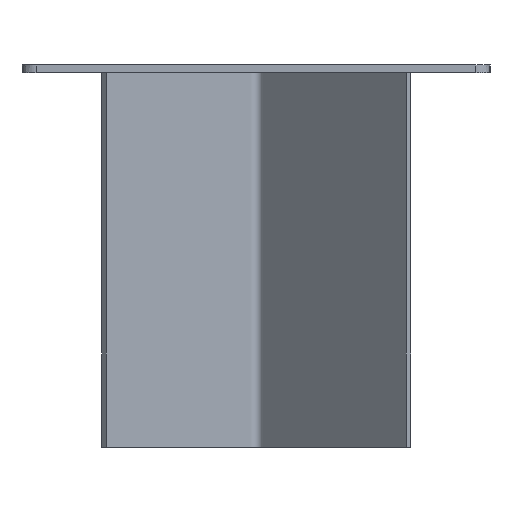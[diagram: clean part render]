
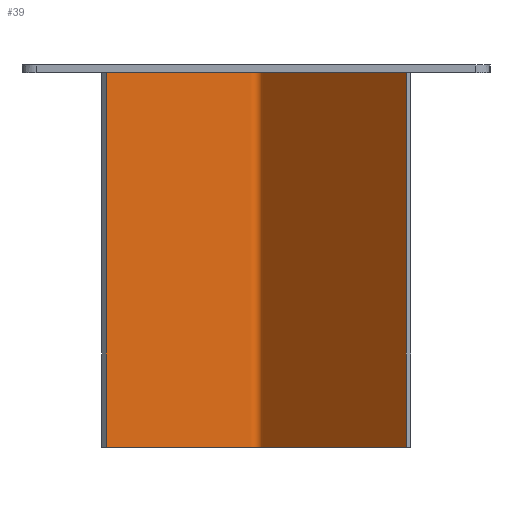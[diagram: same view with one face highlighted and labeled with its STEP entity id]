
A CAD part, left-side view. The second image highlights one B-rep face of the part: STEP entity #39.
In plain terms, the highlighted free-form (B-spline) face has degree [1, 2] with [2, 7] control points.
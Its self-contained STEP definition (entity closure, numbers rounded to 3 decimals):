
#39=ADVANCED_FACE($,(#63),#294,.T.);
#63=FACE_OUTER_BOUND($,#87,.T.);
#87=EDGE_LOOP($,(#186,#187,#188,#189));
#186=ORIENTED_EDGE($,*,*,#242,.T.);
#187=ORIENTED_EDGE($,*,*,#249,.T.);
#188=ORIENTED_EDGE($,*,*,#246,.F.);
#189=ORIENTED_EDGE($,*,*,#250,.F.);
#242=EDGE_CURVE($,#282,#281,#334,.T.);
#246=EDGE_CURVE($,#286,#285,#335,.T.);
#249=EDGE_CURVE($,#281,#285,#363,.T.);
#250=EDGE_CURVE($,#282,#286,#364,.T.);
#281=VERTEX_POINT($,#797);
#282=VERTEX_POINT($,#798);
#285=VERTEX_POINT($,#801);
#286=VERTEX_POINT($,#802);
#294=(
BOUNDED_SURFACE()
B_SPLINE_SURFACE(1,2,((#769,#770,#771,#772,#773,#774,#775),(#776,#777,#778,
#779,#780,#781,#782)),.UNSPECIFIED.,.F.,.F.,.F.)
B_SPLINE_SURFACE_WITH_KNOTS((2,2),(3,2,2,3),(0.,720.),(-2054.973,
-1661.973,-1638.412,-1245.412),.UNSPECIFIED.)
GEOMETRIC_REPRESENTATION_ITEM()
RATIONAL_B_SPLINE_SURFACE(((1.,1.,1.,0.707,1.,1.,1.),(1.,1.,
1.,0.707,1.,1.,1.)))
REPRESENTATION_ITEM($)
SURFACE()
);
#334=(
BOUNDED_CURVE()
B_SPLINE_CURVE(2,(#735,#736,#737,#738,#739,#740,#741),.UNSPECIFIED.,.F.,
.F.)
B_SPLINE_CURVE_WITH_KNOTS((3,2,2,3),(1245.412,1638.412,1661.973,
2054.973),.UNSPECIFIED.)
CURVE()
GEOMETRIC_REPRESENTATION_ITEM()
RATIONAL_B_SPLINE_CURVE((1.,1.,1.,0.707,1.,1.,1.))
REPRESENTATION_ITEM($)
);
#335=(
BOUNDED_CURVE()
B_SPLINE_CURVE(2,(#748,#749,#750,#751,#752,#753,#754),.UNSPECIFIED.,.F.,
.F.)
B_SPLINE_CURVE_WITH_KNOTS((3,2,2,3),(1245.412,1638.412,1661.973,
2054.973),.UNSPECIFIED.)
CURVE()
GEOMETRIC_REPRESENTATION_ITEM()
RATIONAL_B_SPLINE_CURVE((1.,1.,1.,0.707,1.,1.,1.))
REPRESENTATION_ITEM($)
);
#363=B_SPLINE_CURVE_WITH_KNOTS($,1,(#759,#760),.UNSPECIFIED.,.F.,.F.,(2,
2),(0.,720.),.UNSPECIFIED.);
#364=B_SPLINE_CURVE_WITH_KNOTS($,1,(#761,#762),.UNSPECIFIED.,.F.,.F.,(2,
2),(0.,720.),.UNSPECIFIED.);
#735=CARTESIAN_POINT($,(-1202.659,-1275.806,0.));
#736=CARTESIAN_POINT($,(-1063.712,-1136.859,0.));
#737=CARTESIAN_POINT($,(-924.766,-997.913,0.));
#738=CARTESIAN_POINT($,(-914.159,-987.306,0.));
#739=CARTESIAN_POINT($,(-924.766,-976.7,0.));
#740=CARTESIAN_POINT($,(-1063.712,-837.753,0.));
#741=CARTESIAN_POINT($,(-1202.659,-698.807,0.));
#748=CARTESIAN_POINT($,(-1202.659,-1275.806,-720.));
#749=CARTESIAN_POINT($,(-1063.712,-1136.859,-720.));
#750=CARTESIAN_POINT($,(-924.766,-997.913,-720.));
#751=CARTESIAN_POINT($,(-914.159,-987.306,-720.));
#752=CARTESIAN_POINT($,(-924.766,-976.7,-720.));
#753=CARTESIAN_POINT($,(-1063.712,-837.753,-720.));
#754=CARTESIAN_POINT($,(-1202.659,-698.807,-720.));
#759=CARTESIAN_POINT($,(-1202.659,-698.807,0.));
#760=CARTESIAN_POINT($,(-1202.659,-698.807,-720.));
#761=CARTESIAN_POINT($,(-1202.659,-1275.806,0.));
#762=CARTESIAN_POINT($,(-1202.659,-1275.806,-720.));
#769=CARTESIAN_POINT($,(-1202.659,-698.807,0.));
#770=CARTESIAN_POINT($,(-1063.712,-837.753,0.));
#771=CARTESIAN_POINT($,(-924.766,-976.7,0.));
#772=CARTESIAN_POINT($,(-914.159,-987.306,0.));
#773=CARTESIAN_POINT($,(-924.766,-997.913,0.));
#774=CARTESIAN_POINT($,(-1063.712,-1136.859,0.));
#775=CARTESIAN_POINT($,(-1202.659,-1275.806,0.));
#776=CARTESIAN_POINT($,(-1202.659,-698.807,-720.));
#777=CARTESIAN_POINT($,(-1063.712,-837.753,-720.));
#778=CARTESIAN_POINT($,(-924.766,-976.7,-720.));
#779=CARTESIAN_POINT($,(-914.159,-987.306,-720.));
#780=CARTESIAN_POINT($,(-924.766,-997.913,-720.));
#781=CARTESIAN_POINT($,(-1063.712,-1136.859,-720.));
#782=CARTESIAN_POINT($,(-1202.659,-1275.806,-720.));
#797=CARTESIAN_POINT($,(-1202.659,-698.807,0.));
#798=CARTESIAN_POINT($,(-1202.659,-1275.806,0.));
#801=CARTESIAN_POINT($,(-1202.659,-698.807,-720.));
#802=CARTESIAN_POINT($,(-1202.659,-1275.806,-720.));
